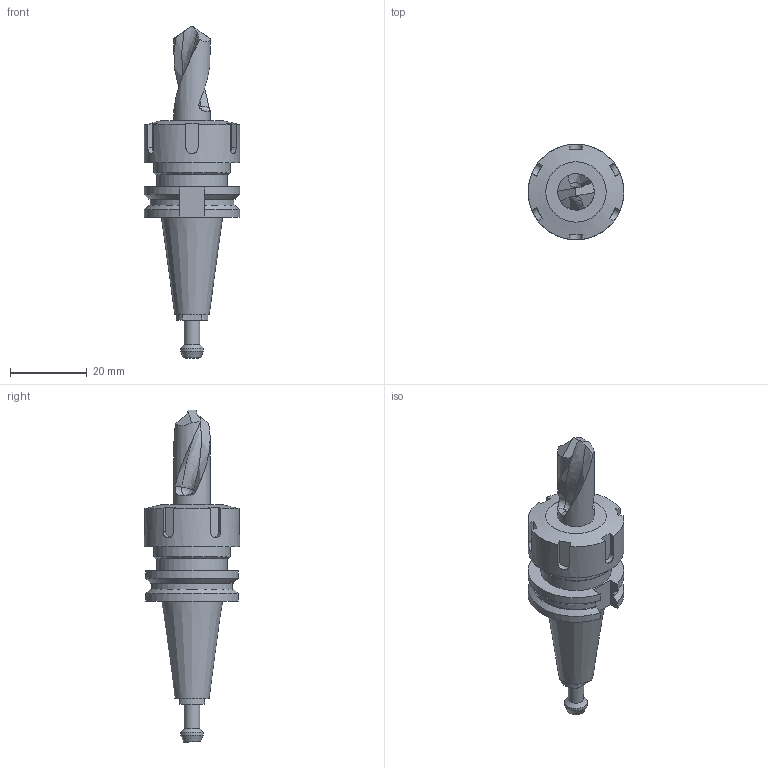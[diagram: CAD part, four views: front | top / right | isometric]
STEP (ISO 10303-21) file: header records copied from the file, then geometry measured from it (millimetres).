
FILE_DESCRIPTION((''),'2;1');
FILE_NAME('G:\advanced cnc class\Mastercam solids\STEP files\Tool Holder.stp','2024-02-05T12:29:09',(''),(''),'STEP Write','Mastercam 2022 ... CNC Software, Inc.','');
FILE_SCHEMA(('AUTOMOTIVE_DESIGN'));
Length unit declared in the file: inch
Products named in the file (1): None
Bounding box: 25 x 25 x 86.79 mm (x, y, z)
Volume: 14599.5 mm3; surface area: 5157.9 mm2
Topology: 1 solids, 1 shells, 85 faces, 222 edges, 146 vertices
Faces by surface type: plane 44, cylinder 20, bspline 12, cone 9
Full cylindrical faces by diameter (mm): 4 x1, 6 x1, 9.525 x1, 18.497 x1, 19.998 x1, 24.997 x1
Entity records: 3354 total; most frequent: CARTESIAN_POINT 1319, ORIENTED_EDGE 408, DIRECTION 371, EDGE_CURVE 204, AXIS2_PLACEMENT_3D 144, VERTEX_POINT 139, EDGE_LOOP 103, STYLED_ITEM 87
